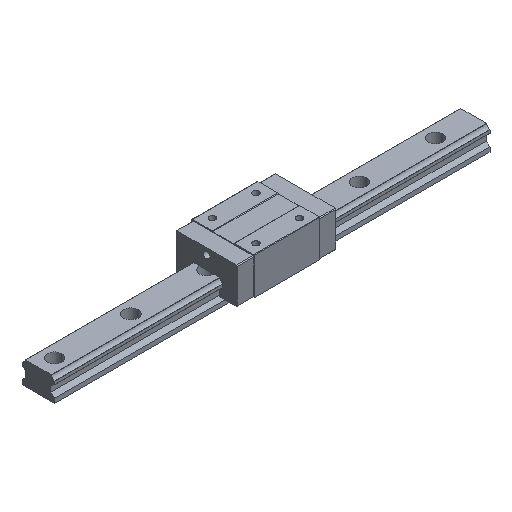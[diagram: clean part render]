
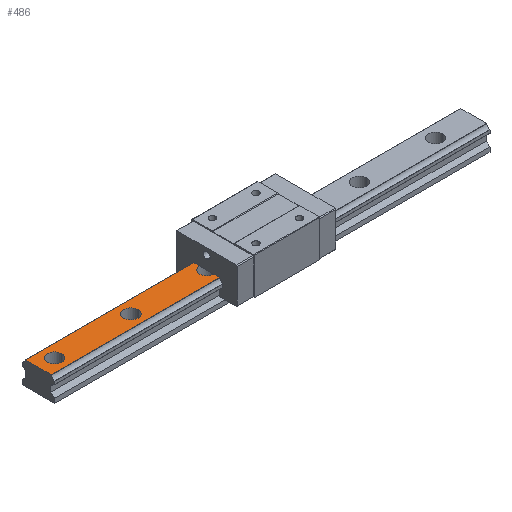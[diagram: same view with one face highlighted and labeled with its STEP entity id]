
A CAD part, isometric view. The second image highlights one B-rep face of the part: STEP entity #486.
In plain terms, the highlighted planar face has unit normal (0, 0, 1).
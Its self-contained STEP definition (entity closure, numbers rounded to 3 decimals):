
#17 = DIRECTION ( 'NONE',  ( 0., 0., -1. ) ) ;
#205 = VERTEX_POINT ( 'NONE', #353 ) ;
#299 = CARTESIAN_POINT ( 'NONE',  ( 300., 17.738, 32. ) ) ;
#341 = CARTESIAN_POINT ( 'NONE',  ( -77.5, 0., 32. ) ) ;
#353 = CARTESIAN_POINT ( 'NONE',  ( -300., -17.738, 32. ) ) ;
#377 = EDGE_CURVE ( 'NONE', #1381, #3659, #4272, .T. ) ;
#384 = CIRCLE ( 'NONE', #2011, 10. ) ;
#486 = ADVANCED_FACE ( 'NONE', ( #3305, #877, #2921 ), #4016, .F. ) ;
#548 = CARTESIAN_POINT ( 'NONE',  ( -162.5, 0., 32. ) ) ;
#597 = CARTESIAN_POINT ( 'NONE',  ( -68., -17.738, 32. ) ) ;
#617 = ORIENTED_EDGE ( 'NONE', *, *, #2841, .T. ) ;
#618 = AXIS2_PLACEMENT_3D ( 'NONE', #2437, #2877, #4037 ) ;
#648 = ORIENTED_EDGE ( 'NONE', *, *, #980, .T. ) ;
#650 = CARTESIAN_POINT ( 'NONE',  ( -300., 17.738, 32. ) ) ;
#654 = AXIS2_PLACEMENT_3D ( 'NONE', #1978, #4341, #848 ) ;
#700 = CARTESIAN_POINT ( 'NONE',  ( 300., -17.738, 32. ) ) ;
#832 = AXIS2_PLACEMENT_3D ( 'NONE', #3485, #17, #3718 ) ;
#848 = DIRECTION ( 'NONE',  ( -1., 0., 0. ) ) ;
#854 = CARTESIAN_POINT ( 'NONE',  ( -172.5, 0., 32. ) ) ;
#877 = FACE_BOUND ( 'NONE', #1773, .T. ) ;
#921 = ORIENTED_EDGE ( 'NONE', *, *, #3225, .T. ) ;
#980 = EDGE_CURVE ( 'NONE', #2332, #4289, #1142, .T. ) ;
#1010 = DIRECTION ( 'NONE',  ( -1., 0., 0. ) ) ;
#1058 = CIRCLE ( 'NONE', #654, 10. ) ;
#1100 = CARTESIAN_POINT ( 'NONE',  ( -67.5, 0., 32. ) ) ;
#1104 = CARTESIAN_POINT ( 'NONE',  ( -68., 9.987, 32. ) ) ;
#1136 = DIRECTION ( 'NONE',  ( -1., 0., 0. ) ) ;
#1142 = CIRCLE ( 'NONE', #3099, 10. ) ;
#1144 = VECTOR ( 'NONE', #4619, 1000. ) ;
#1236 = CIRCLE ( 'NONE', #4818, 10. ) ;
#1268 = VERTEX_POINT ( 'NONE', #4511 ) ;
#1295 = VECTOR ( 'NONE', #1685, 1000. ) ;
#1381 = VERTEX_POINT ( 'NONE', #4994 ) ;
#1438 = DIRECTION ( 'NONE',  ( 0., -1., 0. ) ) ;
#1442 = EDGE_CURVE ( 'NONE', #4816, #3854, #384, .T. ) ;
#1466 = ORIENTED_EDGE ( 'NONE', *, *, #4335, .T. ) ;
#1485 = DIRECTION ( 'NONE',  ( -1., 0., 0. ) ) ;
#1631 = ORIENTED_EDGE ( 'NONE', *, *, #3984, .T. ) ;
#1672 = EDGE_CURVE ( 'NONE', #3130, #205, #4450, .T. ) ;
#1685 = DIRECTION ( 'NONE',  ( 0., -1., 0. ) ) ;
#1773 = EDGE_LOOP ( 'NONE', ( #1631, #2835 ) ) ;
#1836 = EDGE_CURVE ( 'NONE', #4410, #3130, #3054, .T. ) ;
#1903 = CIRCLE ( 'NONE', #832, 10. ) ;
#1930 = CARTESIAN_POINT ( 'NONE',  ( -267.5, 0., 32. ) ) ;
#1978 = CARTESIAN_POINT ( 'NONE',  ( -172.5, 0., 32. ) ) ;
#2011 = AXIS2_PLACEMENT_3D ( 'NONE', #2290, #2984, #3845 ) ;
#2230 = LINE ( 'NONE', #597, #3844 ) ;
#2290 = CARTESIAN_POINT ( 'NONE',  ( -277.5, 0., 32. ) ) ;
#2332 = VERTEX_POINT ( 'NONE', #341 ) ;
#2437 = CARTESIAN_POINT ( 'NONE',  ( 300., 0., 32. ) ) ;
#2546 = VECTOR ( 'NONE', #3394, 1000. ) ;
#2592 = EDGE_CURVE ( 'NONE', #4410, #4289, #2230, .T. ) ;
#2612 = ORIENTED_EDGE ( 'NONE', *, *, #2592, .F. ) ;
#2622 = EDGE_CURVE ( 'NONE', #1268, #4900, #3368, .T. ) ;
#2690 = EDGE_LOOP ( 'NONE', ( #921, #4516 ) ) ;
#2736 = EDGE_LOOP ( 'NONE', ( #1466, #4154, #617, #648, #2612, #4182, #3900 ) ) ;
#2835 = ORIENTED_EDGE ( 'NONE', *, *, #377, .T. ) ;
#2841 = EDGE_CURVE ( 'NONE', #4900, #2332, #1903, .T. ) ;
#2877 = DIRECTION ( 'NONE',  ( 0., 0., -1. ) ) ;
#2921 = FACE_OUTER_BOUND ( 'NONE', #2736, .T. ) ;
#2955 = DIRECTION ( 'NONE',  ( 0., 0., -1. ) ) ;
#2984 = DIRECTION ( 'NONE',  ( 0., 0., -1. ) ) ;
#3054 = LINE ( 'NONE', #299, #4631 ) ;
#3099 = AXIS2_PLACEMENT_3D ( 'NONE', #1100, #4259, #1485 ) ;
#3130 = VERTEX_POINT ( 'NONE', #650 ) ;
#3161 = CARTESIAN_POINT ( 'NONE',  ( -68., 17.738, 32. ) ) ;
#3225 = EDGE_CURVE ( 'NONE', #3854, #4816, #1236, .T. ) ;
#3305 = FACE_BOUND ( 'NONE', #2690, .T. ) ;
#3368 = LINE ( 'NONE', #4519, #2546 ) ;
#3394 = DIRECTION ( 'NONE',  ( 0., 1., 0. ) ) ;
#3485 = CARTESIAN_POINT ( 'NONE',  ( -67.5, 0., 32. ) ) ;
#3643 = CARTESIAN_POINT ( 'NONE',  ( -300., 0., 32. ) ) ;
#3659 = VERTEX_POINT ( 'NONE', #548 ) ;
#3717 = CARTESIAN_POINT ( 'NONE',  ( -277.5, 0., 32. ) ) ;
#3718 = DIRECTION ( 'NONE',  ( -1., 0., 0. ) ) ;
#3844 = VECTOR ( 'NONE', #1438, 1000. ) ;
#3845 = DIRECTION ( 'NONE',  ( -1., 0., 0. ) ) ;
#3848 = CARTESIAN_POINT ( 'NONE',  ( -287.5, 0., 32. ) ) ;
#3854 = VERTEX_POINT ( 'NONE', #1930 ) ;
#3900 = ORIENTED_EDGE ( 'NONE', *, *, #1672, .T. ) ;
#3984 = EDGE_CURVE ( 'NONE', #3659, #1381, #1058, .T. ) ;
#4016 = PLANE ( 'NONE',  #618 ) ;
#4037 = DIRECTION ( 'NONE',  ( 0., -1., 0. ) ) ;
#4113 = AXIS2_PLACEMENT_3D ( 'NONE', #854, #4275, #1136 ) ;
#4154 = ORIENTED_EDGE ( 'NONE', *, *, #2622, .T. ) ;
#4182 = ORIENTED_EDGE ( 'NONE', *, *, #1836, .T. ) ;
#4190 = LINE ( 'NONE', #700, #1144 ) ;
#4259 = DIRECTION ( 'NONE',  ( 0., 0., -1. ) ) ;
#4272 = CIRCLE ( 'NONE', #4113, 10. ) ;
#4275 = DIRECTION ( 'NONE',  ( 0., 0., -1. ) ) ;
#4289 = VERTEX_POINT ( 'NONE', #1104 ) ;
#4335 = EDGE_CURVE ( 'NONE', #205, #1268, #4190, .T. ) ;
#4341 = DIRECTION ( 'NONE',  ( 0., 0., -1. ) ) ;
#4410 = VERTEX_POINT ( 'NONE', #3161 ) ;
#4450 = LINE ( 'NONE', #3643, #1295 ) ;
#4511 = CARTESIAN_POINT ( 'NONE',  ( -68., -17.738, 32. ) ) ;
#4516 = ORIENTED_EDGE ( 'NONE', *, *, #1442, .T. ) ;
#4519 = CARTESIAN_POINT ( 'NONE',  ( -68., -25.138, 32. ) ) ;
#4529 = DIRECTION ( 'NONE',  ( -1., 0., 0. ) ) ;
#4619 = DIRECTION ( 'NONE',  ( 1., 0., 0. ) ) ;
#4631 = VECTOR ( 'NONE', #4529, 1000. ) ;
#4782 = CARTESIAN_POINT ( 'NONE',  ( -68., -9.987, 32. ) ) ;
#4816 = VERTEX_POINT ( 'NONE', #3848 ) ;
#4818 = AXIS2_PLACEMENT_3D ( 'NONE', #3717, #2955, #1010 ) ;
#4900 = VERTEX_POINT ( 'NONE', #4782 ) ;
#4994 = CARTESIAN_POINT ( 'NONE',  ( -182.5, 0., 32. ) ) ;
